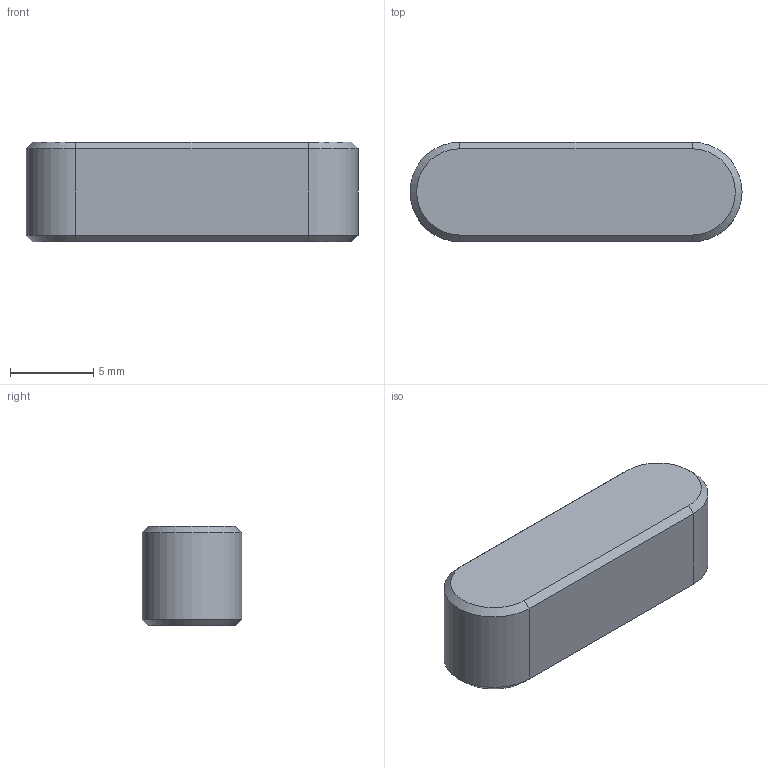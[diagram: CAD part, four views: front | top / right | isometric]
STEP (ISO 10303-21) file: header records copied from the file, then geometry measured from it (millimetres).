
FILE_DESCRIPTION(/* description */ (''),/* implementation_level */ '2;1');
FILE_NAME(/* name */ '',/* time_stamp */ '2026-07-01T11:13:11+09:00',/* author */ ('jhkim'),/* organization */ (''),/* preprocessor_version */ 'ST-DEVELOPER v20.1',/* originating_system */ 'Autodesk Inventor 2027',/* authorisation */ '');
FILE_SCHEMA (('AUTOMOTIVE_DESIGN { 1 0 10303 214 3 1 1 }'));
Length unit declared in the file: millimetre
Products named in the file (1): 평행 키 6x6x20
Bounding box: 20 x 6 x 6 mm (x, y, z)
Volume: 666.3 mm3; surface area: 483.3 mm2
Topology: 1 solids, 1 shells, 14 faces, 28 edges, 16 vertices
Faces by surface type: plane 8, cone 4, cylinder 2
Entity records: 399 total; most frequent: DIRECTION 66, CARTESIAN_POINT 59, ORIENTED_EDGE 56, EDGE_CURVE 28, AXIS2_PLACEMENT_3D 23, LINE 20, VECTOR 20, VERTEX_POINT 16
